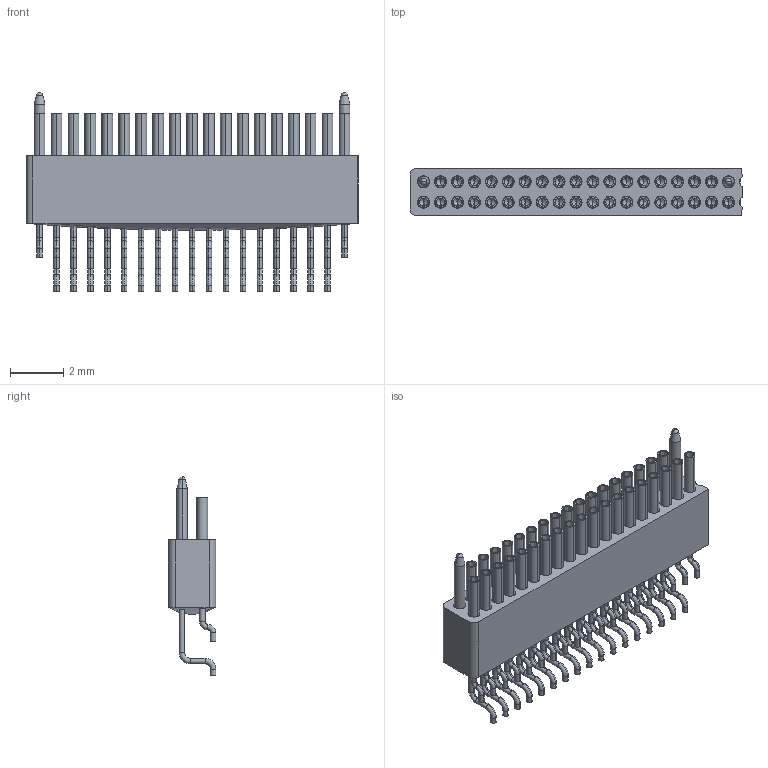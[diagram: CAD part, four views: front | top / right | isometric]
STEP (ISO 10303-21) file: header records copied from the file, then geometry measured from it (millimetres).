
FILE_DESCRIPTION (( 'STEP AP214' ), '1' );
FILE_NAME ('A79049-001 REV B.STEP', '2015-11-06T13:27:21', ( '' ), ( '' ), 'SwSTEP 2.0', 'SolidWorks 2015', '' );
FILE_SCHEMA (( 'AUTOMOTIVE_DESIGN' ));
Length unit declared in the file: inch
Products named in the file (1): A79049-001
Bounding box: 12.45 x 1.79 x 7.44 mm (x, y, z)
Volume: 57.7 mm3; surface area: 554.1 mm2
Topology: 1 solids, 1 shells, 839 faces, 1872 edges, 1095 vertices
Faces by surface type: cylinder 416, plane 175, torus 148, cone 76, bspline 24
Entity records: 25223 total; most frequent: CARTESIAN_POINT 6642, DIRECTION 4202, ORIENTED_EDGE 3592, EDGE_CURVE 1796, AXIS2_PLACEMENT_3D 1766, VERTEX_POINT 1095, EDGE_LOOP 975, CIRCLE 950
